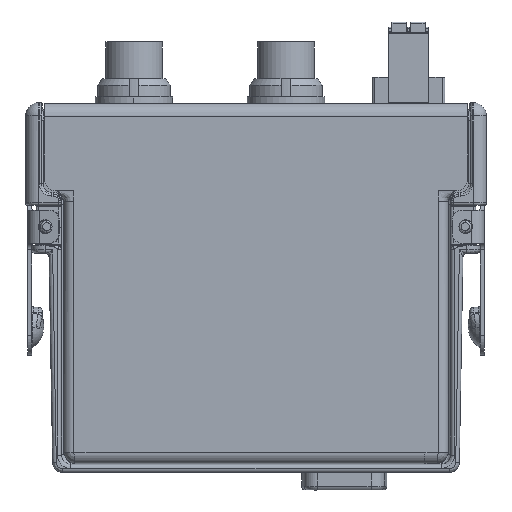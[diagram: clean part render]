
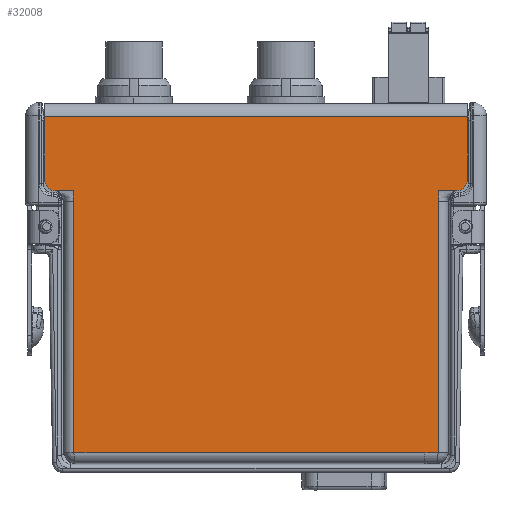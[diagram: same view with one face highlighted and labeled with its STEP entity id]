
A CAD part, left-side view. The second image highlights one B-rep face of the part: STEP entity #32008.
In plain terms, the highlighted planar face has unit normal (-1, 0, 0).
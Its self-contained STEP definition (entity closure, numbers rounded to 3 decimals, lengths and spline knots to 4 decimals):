
#591=DIRECTION('',(0.,-1.,0.));
#592=VECTOR('',#591,2.543);
#593=CARTESIAN_POINT('',(-0.4475,1.2715,0.146));
#594=LINE('',#593,#592);
#673=DIRECTION('',(0.,0.,-1.));
#674=VECTOR('',#673,0.476);
#675=CARTESIAN_POINT('',(-0.4475,1.5895,2.676));
#676=LINE('',#675,#674);
#677=DIRECTION('',(0.,0.,1.));
#678=VECTOR('',#677,0.476);
#679=CARTESIAN_POINT('',(-0.4475,-1.5895,2.2));
#680=LINE('',#679,#678);
#681=DIRECTION('',(0.,0.,1.));
#682=VECTOR('',#681,0.079);
#683=CARTESIAN_POINT('',(-0.4475,-1.3765,2.041));
#684=LINE('',#683,#682);
#685=DIRECTION('',(0.,-1.,0.));
#686=VECTOR('',#685,0.105);
#687=CARTESIAN_POINT('',(-0.4475,-1.2715,0.146));
#688=LINE('',#687,#686);
#689=DIRECTION('',(0.,-1.,0.));
#690=VECTOR('',#689,0.095);
#691=CARTESIAN_POINT('',(-0.4475,1.3665,0.146));
#692=LINE('',#691,#690);
#693=DIRECTION('',(0.,-1.,0.));
#694=VECTOR('',#693,0.01);
#695=CARTESIAN_POINT('',(-0.4475,1.3765,0.146));
#696=LINE('',#695,#694);
#697=DIRECTION('',(0.,0.,1.));
#698=VECTOR('',#697,0.079);
#699=CARTESIAN_POINT('',(-0.4475,1.3765,2.041));
#700=LINE('',#699,#698);
#714=CARTESIAN_POINT('',(-0.4475,1.5095,2.2));
#715=DIRECTION('',(-1.,0.,0.));
#716=DIRECTION('',(0.,1.,0.));
#717=AXIS2_PLACEMENT_3D('',#714,#715,#716);
#719=DIRECTION('',(0.,-1.,0.));
#720=VECTOR('',#719,0.133);
#721=CARTESIAN_POINT('',(-0.4475,1.5095,2.12));
#722=LINE('',#721,#720);
#739=DIRECTION('',(0.,0.,1.));
#740=VECTOR('',#739,1.895);
#741=CARTESIAN_POINT('',(-0.4475,1.3765,0.146));
#742=LINE('',#741,#740);
#1098=DIRECTION('',(0.,-1.,0.));
#1099=VECTOR('',#1098,3.179);
#1100=CARTESIAN_POINT('',(-0.4475,1.5895,2.676));
#1101=LINE('',#1100,#1099);
#22702=CARTESIAN_POINT('',(-0.4475,-1.5095,2.2));
#22703=DIRECTION('',(-1.,0.,0.));
#22704=DIRECTION('',(0.,0.,-1.));
#22705=AXIS2_PLACEMENT_3D('',#22702,#22703,#22704);
#22715=DIRECTION('',(0.,-1.,0.));
#22716=VECTOR('',#22715,0.133);
#22717=CARTESIAN_POINT('',(-0.4475,-1.3765,2.12));
#22718=LINE('',#22717,#22716);
#22750=DIRECTION('',(0.,0.,1.));
#22751=VECTOR('',#22750,1.895);
#22752=CARTESIAN_POINT('',(-0.4475,-1.3765,0.146));
#22753=LINE('',#22752,#22751);
#30354=CARTESIAN_POINT('',(-0.4475,-1.5895,2.676));
#30355=VERTEX_POINT('',#30354);
#30356=CARTESIAN_POINT('',(-0.4475,1.5895,2.676));
#30357=VERTEX_POINT('',#30356);
#30382=CARTESIAN_POINT('',(-0.4475,1.2715,0.146));
#30383=CARTESIAN_POINT('',(-0.4475,-1.2715,0.146));
#30384=VERTEX_POINT('',#30382);
#30385=VERTEX_POINT('',#30383);
#30394=CARTESIAN_POINT('',(-0.4475,-1.3765,0.146));
#30395=VERTEX_POINT('',#30394);
#30451=CARTESIAN_POINT('',(-0.4475,1.5095,2.12));
#30453=VERTEX_POINT('',#30451);
#30456=CARTESIAN_POINT('',(-0.4475,1.5895,2.2));
#30457=VERTEX_POINT('',#30456);
#30459=CARTESIAN_POINT('',(-0.4475,-1.5895,2.2));
#30461=VERTEX_POINT('',#30459);
#30464=CARTESIAN_POINT('',(-0.4475,-1.5095,2.12));
#30465=VERTEX_POINT('',#30464);
#30478=CARTESIAN_POINT('',(-0.4475,-1.3765,2.041));
#30479=VERTEX_POINT('',#30478);
#30482=CARTESIAN_POINT('',(-0.4475,-1.3765,2.12));
#30483=VERTEX_POINT('',#30482);
#30490=CARTESIAN_POINT('',(-0.4475,1.3765,2.041));
#30491=CARTESIAN_POINT('',(-0.4475,1.3765,2.12));
#30492=VERTEX_POINT('',#30490);
#30493=VERTEX_POINT('',#30491);
#30498=CARTESIAN_POINT('',(-0.4475,1.3765,0.146));
#30499=VERTEX_POINT('',#30498);
#30502=CARTESIAN_POINT('',(-0.4475,1.3665,0.146));
#30504=VERTEX_POINT('',#30502);
#31974=CARTESIAN_POINT('',(-0.4475,0.,1.421));
#31975=DIRECTION('',(-1.,0.,0.));
#31976=DIRECTION('',(0.,1.,0.));
#31977=AXIS2_PLACEMENT_3D('',#31974,#31975,#31976);
#31978=PLANE('',#31977);
#31980=ORIENTED_EDGE('',*,*,#31979,.F.);
#31982=ORIENTED_EDGE('',*,*,#31981,.F.);
#31984=ORIENTED_EDGE('',*,*,#31983,.T.);
#31986=ORIENTED_EDGE('',*,*,#31985,.F.);
#31988=ORIENTED_EDGE('',*,*,#31987,.F.);
#31990=ORIENTED_EDGE('',*,*,#31989,.F.);
#31992=ORIENTED_EDGE('',*,*,#31991,.F.);
#31994=ORIENTED_EDGE('',*,*,#31993,.F.);
#31995=ORIENTED_EDGE('',*,*,#31964,.F.);
#31996=ORIENTED_EDGE('',*,*,#31876,.F.);
#31997=ORIENTED_EDGE('',*,*,#31874,.F.);
#31999=ORIENTED_EDGE('',*,*,#31998,.F.);
#32001=ORIENTED_EDGE('',*,*,#32000,.T.);
#32003=ORIENTED_EDGE('',*,*,#32002,.T.);
#32005=ORIENTED_EDGE('',*,*,#32004,.F.);
#32006=EDGE_LOOP('',(#31980,#31982,#31984,#31986,#31988,#31990,#31992,#31994,
#31995,#31996,#31997,#31999,#32001,#32003,#32005));
#32007=FACE_OUTER_BOUND('',#32006,.F.);
#32008=ADVANCED_FACE('',(#32007),#31978,.T.);
#718=CIRCLE('',#717,0.08);
#22706=CIRCLE('',#22705,0.08);
#31874=EDGE_CURVE('',#30504,#30384,#692,.T.);
#31876=EDGE_CURVE('',#30384,#30385,#594,.T.);
#31964=EDGE_CURVE('',#30385,#30395,#688,.T.);
#31979=EDGE_CURVE('',#30457,#30453,#718,.T.);
#31981=EDGE_CURVE('',#30357,#30457,#676,.T.);
#31983=EDGE_CURVE('',#30357,#30355,#1101,.T.);
#31985=EDGE_CURVE('',#30461,#30355,#680,.T.);
#31987=EDGE_CURVE('',#30465,#30461,#22706,.T.);
#31989=EDGE_CURVE('',#30483,#30465,#22718,.T.);
#31991=EDGE_CURVE('',#30479,#30483,#684,.T.);
#31993=EDGE_CURVE('',#30395,#30479,#22753,.T.);
#31998=EDGE_CURVE('',#30499,#30504,#696,.T.);
#32000=EDGE_CURVE('',#30499,#30492,#742,.T.);
#32002=EDGE_CURVE('',#30492,#30493,#700,.T.);
#32004=EDGE_CURVE('',#30453,#30493,#722,.T.);
